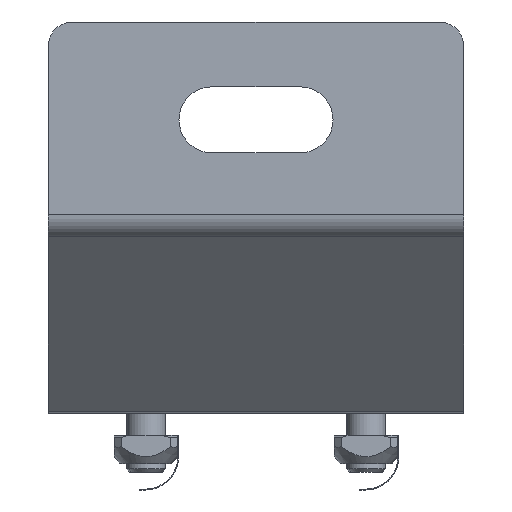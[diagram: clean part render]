
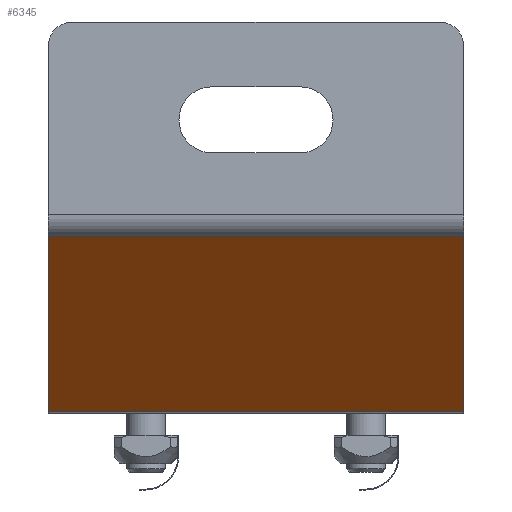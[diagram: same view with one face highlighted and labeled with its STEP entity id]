
A CAD part, front view. The second image highlights one B-rep face of the part: STEP entity #6345.
In plain terms, the highlighted planar face has unit normal (0, -0.423, -0.906).
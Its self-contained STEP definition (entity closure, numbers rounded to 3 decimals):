
#18 = DIRECTION ( 'NONE',  ( 0., -0.906, 0.423 ) ) ;
#324 = CARTESIAN_POINT ( 'NONE',  ( 604.337, 862.658, 1229.072 ) ) ;
#1006 = EDGE_CURVE ( 'NONE', #10487, #4130, #2953, .T. ) ;
#1257 = DIRECTION ( 'NONE',  ( 0., -0.906, 0.423 ) ) ;
#2549 = VERTEX_POINT ( 'NONE', #8139 ) ;
#2801 = DIRECTION ( 'NONE',  ( 1., 0., 0. ) ) ;
#2919 = VERTEX_POINT ( 'NONE', #6738 ) ;
#2953 = LINE ( 'NONE', #10036, #12134 ) ;
#3405 = ORIENTED_EDGE ( 'NONE', *, *, #1006, .T. ) ;
#3535 = VECTOR ( 'NONE', #9906, 1000. ) ;
#3814 = ORIENTED_EDGE ( 'NONE', *, *, #5674, .F. ) ;
#4130 = VERTEX_POINT ( 'NONE', #5189 ) ;
#4133 = EDGE_CURVE ( 'NONE', #2919, #2549, #10037, .T. ) ;
#4675 = VECTOR ( 'NONE', #10834, 1000. ) ;
#4843 = PLANE ( 'NONE',  #8328 ) ;
#4908 = LINE ( 'NONE', #11874, #4675 ) ;
#5189 = CARTESIAN_POINT ( 'NONE',  ( 689.337, 786.199, 1264.725 ) ) ;
#5674 = EDGE_CURVE ( 'NONE', #2919, #4130, #12119, .T. ) ;
#5728 = ORIENTED_EDGE ( 'NONE', *, *, #7106, .T. ) ;
#6345 = ADVANCED_FACE ( 'NONE', ( #11800 ), #4843, .F. ) ;
#6653 = VECTOR ( 'NONE', #2801, 1000. ) ;
#6738 = CARTESIAN_POINT ( 'NONE',  ( 604.337, 786.199, 1264.725 ) ) ;
#7106 = EDGE_CURVE ( 'NONE', #2549, #10487, #4908, .T. ) ;
#7269 = EDGE_LOOP ( 'NONE', ( #3814, #12441, #5728, #3405 ) ) ;
#8139 = CARTESIAN_POINT ( 'NONE',  ( 604.337, 862.658, 1229.072 ) ) ;
#8328 = AXIS2_PLACEMENT_3D ( 'NONE', #9632, #8774, #18 ) ;
#8774 = DIRECTION ( 'NONE',  ( 0., 0.423, 0.906 ) ) ;
#8966 = CARTESIAN_POINT ( 'NONE',  ( 689.337, 862.658, 1229.072 ) ) ;
#9490 = CARTESIAN_POINT ( 'NONE',  ( 604.337, 786.199, 1264.725 ) ) ;
#9632 = CARTESIAN_POINT ( 'NONE',  ( 604.337, 831.208, 1243.737 ) ) ;
#9906 = DIRECTION ( 'NONE',  ( 0., 0.906, -0.423 ) ) ;
#10036 = CARTESIAN_POINT ( 'NONE',  ( 689.337, 785.622, 1264.995 ) ) ;
#10037 = LINE ( 'NONE', #324, #3535 ) ;
#10487 = VERTEX_POINT ( 'NONE', #8966 ) ;
#10834 = DIRECTION ( 'NONE',  ( 1., 0., 0. ) ) ;
#11800 = FACE_OUTER_BOUND ( 'NONE', #7269, .T. ) ;
#11874 = CARTESIAN_POINT ( 'NONE',  ( 689.337, 862.658, 1229.072 ) ) ;
#12119 = LINE ( 'NONE', #9490, #6653 ) ;
#12134 = VECTOR ( 'NONE', #1257, 1000. ) ;
#12441 = ORIENTED_EDGE ( 'NONE', *, *, #4133, .T. ) ;
